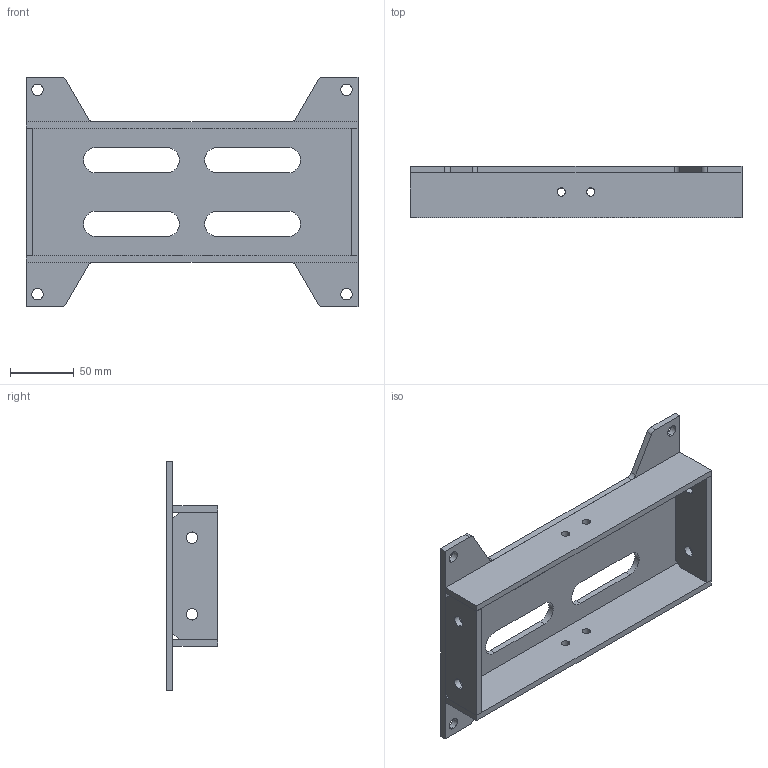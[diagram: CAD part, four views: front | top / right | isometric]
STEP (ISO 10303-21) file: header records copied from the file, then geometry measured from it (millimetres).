
FILE_DESCRIPTION (( 'STEP AP214' ), '1' );
FILE_NAME ('ÂØÀÅ.301343.016 Ïåðåìû÷êà.STEP', '2024-04-17T12:40:09', ( '' ), ( '' ), 'SwSTEP 2.0', 'SolidWorks 2019', '' );
FILE_SCHEMA (( 'AUTOMOTIVE_DESIGN' ));
Length unit declared in the file: millimetre
Products named in the file (4): 贅斃.741124.120 砑僔蠂縺; ÂØÀÅ.301343.016 Ïåðåìû÷êà; 贅斃.741124.121 砑僔蠂縺_漅馰失恭; ﾂﾘﾀﾅ.741131.029 ﾐ裔
Assembly tree (5 placements, depth 2):
  ÂØÀÅ.301343.016 Ïåðåìû÷êà
    贅斃.741124.120 砑僔蠂縺
    ﾂﾘﾀﾅ.741131.029 ﾐ裔  x2
    贅斃.741124.121 砑僔蠂縺_漅馰失恭  x2
Bounding box: 260 x 40 x 180 mm (x, y, z)
Volume: 265331 mm3; surface area: 124452.5 mm2
Topology: 5 solids, 5 shells, 90 faces, 240 edges, 160 vertices
Faces by surface type: plane 50, cylinder 40
Entity records: 2392 total; most frequent: DIRECTION 402, CARTESIAN_POINT 386, ORIENTED_EDGE 372, EDGE_CURVE 186, AXIS2_PLACEMENT_3D 140, VERTEX_POINT 124, LINE 122, VECTOR 122
